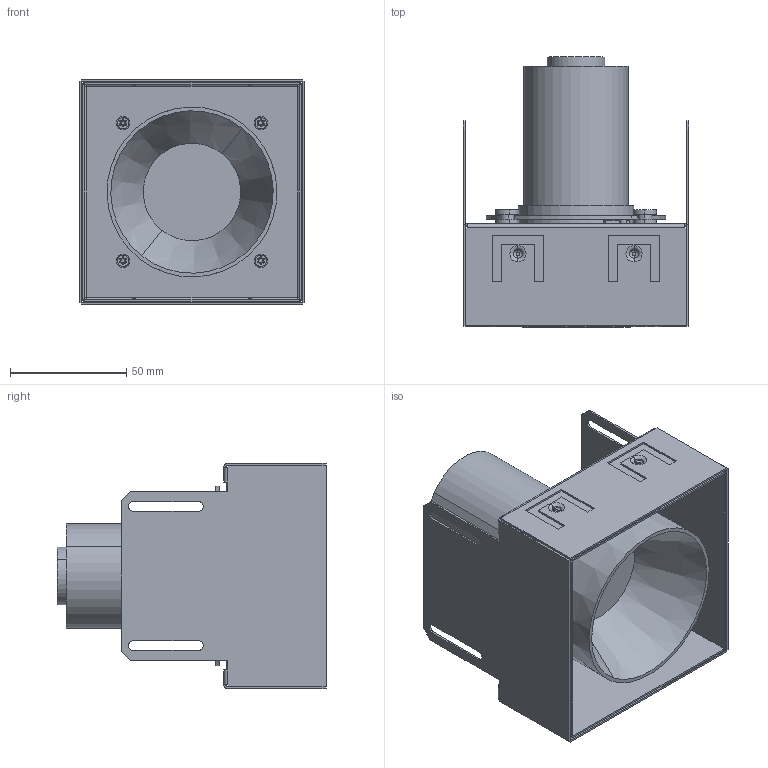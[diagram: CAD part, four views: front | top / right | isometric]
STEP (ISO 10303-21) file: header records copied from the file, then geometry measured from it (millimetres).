
FILE_DESCRIPTION (( 'STEP AP214' ), '1' );
FILE_NAME ('Ringo Box 1.1Frameless.STEP', '2018-04-24T14:55:04', ( 'tecnica2' ), ( 'Microsoft' ), 'SwSTEP 2.0', 'SolidWorks 2016', '' );
FILE_SCHEMA (( 'AUTOMOTIVE_DESIGN' ));
Length unit declared in the file: millimetre
Products named in the file (10): aro giratorio_lamp50(para pieza giro); Pieza interior basculanates ringO_R1 sin teton; MODULOS VS-BIM_10W; Caja_Box 1D50 frameless; Ringo Box 1.1Frameless; Sobre caja_Box 1D50; Remache 4.0-Generico_*7; M3 -Avellanedo Torx_6; Arandela Giro_reducida; prisionero M3x4
Assembly tree (16 placements, depth 2):
  Ringo Box 1.1Frameless
    Caja_Box 1D50 frameless
    MODULOS VS-BIM_10W
    Pieza interior basculanates ringO_R1 sin teton
    aro giratorio_lamp50(para pieza giro)
    prisionero M3x4
    Arandela Giro_reducida  x4
    M3 -Avellanedo Torx_6  x4
    Remache 4.0-Generico_*7  x2
    Sobre caja_Box 1D50
Bounding box: 97 x 116.3 x 97 mm (x, y, z)
Volume: 205466.9 mm3; surface area: 144930.7 mm2
Topology: 16 solids, 16 shells, 608 faces, 1479 edges, 899 vertices
Faces by surface type: plane 270, cylinder 190, torus 72, cone 36, sphere 32, bspline 8
Entity records: 14045 total; most frequent: CARTESIAN_POINT 2745, DIRECTION 2333, ORIENTED_EDGE 2188, EDGE_CURVE 1094, AXIS2_PLACEMENT_3D 860, VERTEX_POINT 682, LINE 613, VECTOR 613
